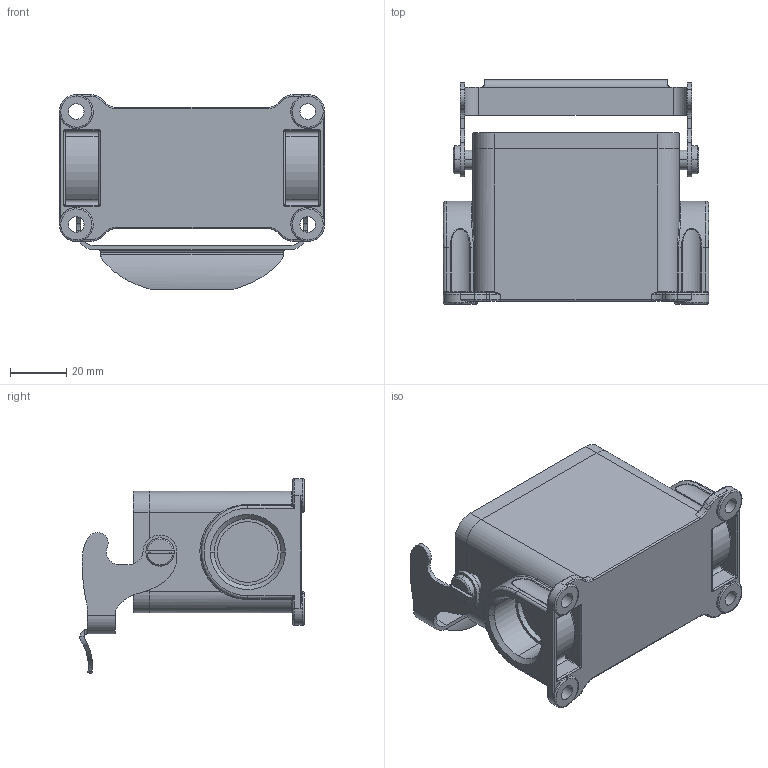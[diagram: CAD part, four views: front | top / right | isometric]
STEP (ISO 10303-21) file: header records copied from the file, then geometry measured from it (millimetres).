
FILE_DESCRIPTION (( 'STEP AP203' ), '1' );
FILE_NAME ('H10B-SGR-M20&M25.STEP', '2020-11-21T02:55:04', ( '' ), ( '' ), 'SwSTEP 2.0', 'SolidWorks 2016', '' );
FILE_SCHEMA (( 'CONFIG_CONTROL_DESIGN' ));
Length unit declared in the file: millimetre
Products named in the file (6): prt0002; H10B-SGR-M20&M25; 10bbuxiugangdankou; 10bmifengquan; maoding; 10b-surface-m-lowconstruction
Assembly tree (7 placements, depth 2):
  H10B-SGR-M20&M25
    10bbuxiugangdankou
    prt0002  x2
    maoding  x2
    10bmifengquan
    10b-surface-m-lowconstruction
Bounding box: 94 x 79.54 x 69 mm (x, y, z)
Volume: 77777.8 mm3; surface area: 47457.4 mm2
Topology: 7 solids, 7 shells, 629 faces, 1526 edges, 940 vertices
Faces by surface type: cylinder 266, bspline 154, plane 153, cone 56
Entity records: 24251 total; most frequent: CARTESIAN_POINT 10719, ORIENTED_EDGE 2860, DIRECTION 2509, EDGE_CURVE 1430, AXIS2_PLACEMENT_3D 973, VERTEX_POINT 877, EDGE_LOOP 625, ADVANCED_FACE 587
